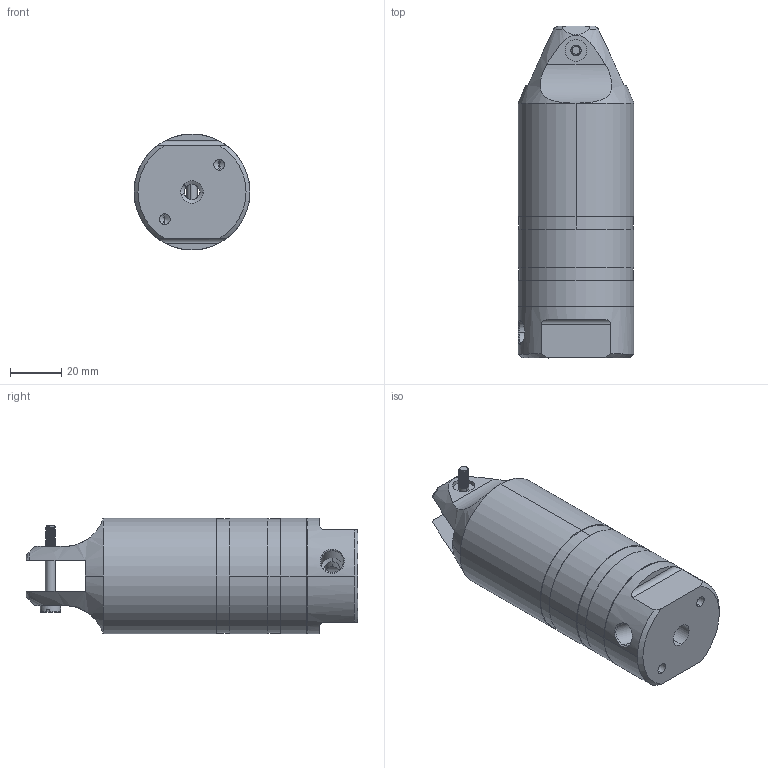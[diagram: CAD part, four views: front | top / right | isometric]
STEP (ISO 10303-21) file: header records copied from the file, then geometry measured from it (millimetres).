
FILE_DESCRIPTION (( 'STEP AP214' ), '1' );
FILE_NAME ('NGT-NR20P.STEP', '2019-11-13T06:54:06', ( '微软用户' ), ( '微软中国' ), 'SwSTEP 2.0', 'SolidWorks 2016', '' );
FILE_SCHEMA (( 'AUTOMOTIVE_DESIGN' ));
Length unit declared in the file: millimetre
Products named in the file (1): NGT-NR20P
Bounding box: 45 x 129 x 45 mm (x, y, z)
Volume: 79306.3 mm3; surface area: 38675.1 mm2
Topology: 3 solids, 3 shells, 207 faces, 533 edges, 343 vertices
Faces by surface type: cylinder 126, plane 43, bspline 20, cone 18
Entity records: 14847 total; most frequent: CARTESIAN_POINT 7987, ORIENTED_EDGE 1058, DIRECTION 838, EDGE_CURVE 529, VERTEX_POINT 343, AXIS2_PLACEMENT_3D 327, EDGE_LOOP 232, UNCERTAINTY_MEASURE_WITH_UNIT 212
